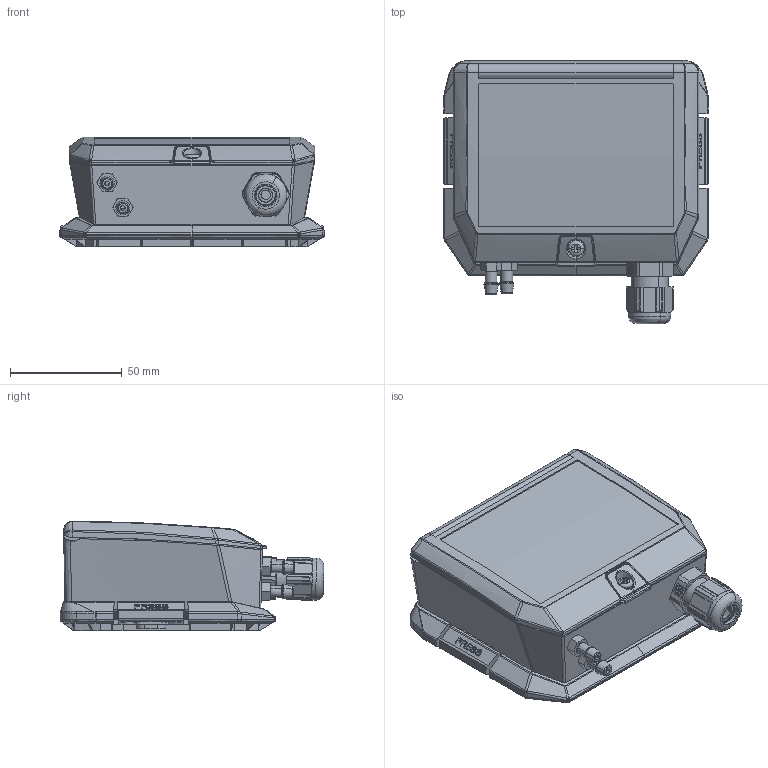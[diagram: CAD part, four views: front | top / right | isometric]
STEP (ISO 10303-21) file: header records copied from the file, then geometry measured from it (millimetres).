
FILE_DESCRIPTION (( 'STEP AP214' ), '1' );
FILE_NAME ('Variante Druck.STEP', '2022-12-05T07:19:15', ( '' ), ( '' ), 'SwSTEP 2.0', 'SolidWorks 2022', '' );
FILE_SCHEMA (( 'AUTOMOTIVE_DESIGN' ));
Length unit declared in the file: millimetre
Products named in the file (7): Variante Druck; SKINTOPM16; Geh-UT I Druck+1xM16; 234 Feel Gehäuse Deckel ohne Wechseleinsatz; 234 Feel Einrastrahmen; Sonderschraube M4; Druckanschluss M5-Silikon
Assembly tree (7 placements, depth 2):
  Variante Druck
    Geh-UT I Druck+1xM16
    234 Feel Gehäuse Deckel ohne Wechseleinsatz
    Sonderschraube M4
    234 Feel Einrastrahmen
    SKINTOPM16
    Druckanschluss M5-Silikon  x2
Bounding box: 118.4 x 118.13 x 49.1 mm (x, y, z)
Volume: 135446.9 mm3; surface area: 127045.3 mm2
Topology: 9 solids, 9 shells, 2824 faces, 7612 edges, 4895 vertices
Faces by surface type: plane 1170, bspline 950, cylinder 352, cone 309, torus 33, sphere 10
Entity records: 140520 total; most frequent: CARTESIAN_POINT 77399, ORIENTED_EDGE 14932, DIRECTION 8551, EDGE_CURVE 7466, VERTEX_POINT 4817, B_SPLINE_CURVE_WITH_KNOTS 2960, EDGE_LOOP 2893, LINE 2883
